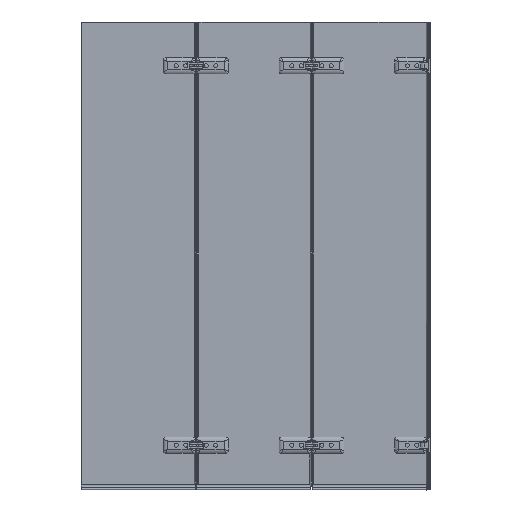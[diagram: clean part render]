
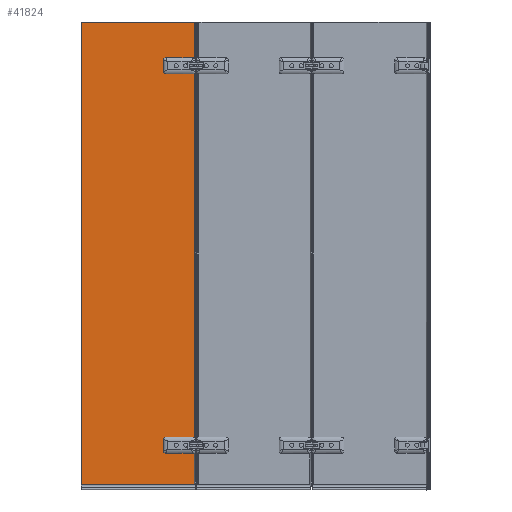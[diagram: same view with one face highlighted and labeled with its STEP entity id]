
A CAD part, left-side view. The second image highlights one B-rep face of the part: STEP entity #41824.
In plain terms, the highlighted planar face has unit normal (-1, 0, 0).
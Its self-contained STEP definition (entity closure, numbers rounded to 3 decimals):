
#678=FACE_BOUND($,#14666,.T.);
#679=FACE_BOUND($,#14667,.T.);
#3739=LINE($,#97539,#7308);
#3740=LINE($,#97545,#7309);
#3952=LINE($,#98615,#7521);
#3982=LINE($,#98694,#7551);
#4148=LINE($,#99300,#7717);
#4159=LINE($,#99336,#7728);
#4160=LINE($,#99339,#7729);
#4161=LINE($,#99341,#7730);
#4162=LINE($,#99344,#7731);
#4163=LINE($,#99346,#7732);
#4164=LINE($,#99350,#7733);
#4165=LINE($,#99353,#7734);
#7308=VECTOR($,#54381,1262.);
#7309=VECTOR($,#54388,116.4);
#7521=VECTOR($,#55036,131.);
#7551=VECTOR($,#55124,30.747);
#7717=VECTOR($,#55598,388.226);
#7728=VECTOR($,#55643,18.);
#7729=VECTOR($,#55646,30.747);
#7730=VECTOR($,#55647,389.647);
#7731=VECTOR($,#55650,1585.3);
#7732=VECTOR($,#55651,29.226);
#7733=VECTOR($,#55654,18.);
#7734=VECTOR($,#55657,30.747);
#10220=PLANE($,#45384);
#12223=FACE_OUTER_BOUND($,#14665,.T.);
#14665=EDGE_LOOP($,(#36316,#36317,#36318,#36319,#36320,#36321,#36322,#36323,
#36324,#36325,#36326,#36327,#36328,#36329,#36330,#36331,#36332));
#14666=EDGE_LOOP($,(#36333));
#14667=EDGE_LOOP($,(#36334));
#16357=CIRCLE($,#45385,10.);
#16358=CIRCLE($,#45386,10.);
#16359=CIRCLE($,#45387,0.1);
#16360=CIRCLE($,#45388,10.);
#16361=CIRCLE($,#45389,10.);
#16362=CIRCLE($,#45390,8.);
#16363=CIRCLE($,#45391,8.);
#19609=VERTEX_POINT($,#97536);
#19610=VERTEX_POINT($,#97538);
#19611=VERTEX_POINT($,#97542);
#19612=VERTEX_POINT($,#97544);
#19829=VERTEX_POINT($,#98612);
#19830=VERTEX_POINT($,#98614);
#19850=VERTEX_POINT($,#98692);
#20002=VERTEX_POINT($,#99299);
#20009=VERTEX_POINT($,#99333);
#20010=VERTEX_POINT($,#99335);
#20011=VERTEX_POINT($,#99337);
#20012=VERTEX_POINT($,#99340);
#20013=VERTEX_POINT($,#99342);
#20014=VERTEX_POINT($,#99345);
#20015=VERTEX_POINT($,#99347);
#20016=VERTEX_POINT($,#99349);
#20017=VERTEX_POINT($,#99351);
#20018=VERTEX_POINT($,#99354);
#20019=VERTEX_POINT($,#99356);
#24953=EDGE_CURVE($,#19609,#19610,#3739,.T.);
#24956=EDGE_CURVE($,#19611,#19612,#3740,.T.);
#25292=EDGE_CURVE($,#19829,#19830,#3952,.T.);
#25332=EDGE_CURVE($,#19850,#19609,#3982,.T.);
#25576=EDGE_CURVE($,#20002,#19612,#4148,.T.);
#25593=EDGE_CURVE($,#19850,#20009,#16357,.T.);
#25594=EDGE_CURVE($,#20010,#20009,#4159,.T.);
#25595=EDGE_CURVE($,#20010,#20011,#16358,.T.);
#25596=EDGE_CURVE($,#19830,#20011,#4160,.T.);
#25597=EDGE_CURVE($,#19829,#20012,#4161,.T.);
#25598=EDGE_CURVE($,#20012,#20013,#16359,.T.);
#25599=EDGE_CURVE($,#20002,#20013,#4162,.T.);
#25600=EDGE_CURVE($,#20014,#19611,#4163,.T.);
#25601=EDGE_CURVE($,#20014,#20015,#16360,.T.);
#25602=EDGE_CURVE($,#20016,#20015,#4164,.T.);
#25603=EDGE_CURVE($,#20016,#20017,#16361,.T.);
#25604=EDGE_CURVE($,#19610,#20017,#4165,.T.);
#25605=EDGE_CURVE($,#20018,#20018,#16362,.T.);
#25606=EDGE_CURVE($,#20019,#20019,#16363,.T.);
#36316=ORIENTED_EDGE($,*,*,#24953,.F.);
#36317=ORIENTED_EDGE($,*,*,#25332,.F.);
#36318=ORIENTED_EDGE($,*,*,#25593,.T.);
#36319=ORIENTED_EDGE($,*,*,#25594,.F.);
#36320=ORIENTED_EDGE($,*,*,#25595,.T.);
#36321=ORIENTED_EDGE($,*,*,#25596,.F.);
#36322=ORIENTED_EDGE($,*,*,#25292,.F.);
#36323=ORIENTED_EDGE($,*,*,#25597,.T.);
#36324=ORIENTED_EDGE($,*,*,#25598,.T.);
#36325=ORIENTED_EDGE($,*,*,#25599,.F.);
#36326=ORIENTED_EDGE($,*,*,#25576,.T.);
#36327=ORIENTED_EDGE($,*,*,#24956,.F.);
#36328=ORIENTED_EDGE($,*,*,#25600,.F.);
#36329=ORIENTED_EDGE($,*,*,#25601,.T.);
#36330=ORIENTED_EDGE($,*,*,#25602,.F.);
#36331=ORIENTED_EDGE($,*,*,#25603,.T.);
#36332=ORIENTED_EDGE($,*,*,#25604,.F.);
#36333=ORIENTED_EDGE($,*,*,#25605,.F.);
#36334=ORIENTED_EDGE($,*,*,#25606,.F.);
#41824=ADVANCED_FACE($,(#12223,#678,#679),#10220,.F.);
#45384=AXIS2_PLACEMENT_3D($,#99332,#55639,#55640);
#45385=AXIS2_PLACEMENT_3D($,#99334,#55641,#55642);
#45386=AXIS2_PLACEMENT_3D($,#99338,#55644,#55645);
#45387=AXIS2_PLACEMENT_3D($,#99343,#55648,#55649);
#45388=AXIS2_PLACEMENT_3D($,#99348,#55652,#55653);
#45389=AXIS2_PLACEMENT_3D($,#99352,#55655,#55656);
#45390=AXIS2_PLACEMENT_3D($,#99355,#55658,#55659);
#45391=AXIS2_PLACEMENT_3D($,#99357,#55660,#55661);
#54381=DIRECTION($,(0.,0.,-1.));
#54388=DIRECTION($,(0.,0.,-1.));
#55036=DIRECTION($,(0.,0.,-1.));
#55124=DIRECTION($,(0.,-1.,0.));
#55598=DIRECTION($,(0.,-1.,0.));
#55639=DIRECTION('center_axis',(1.,0.,0.));
#55640=DIRECTION('ref_axis',(0.,1.,0.));
#55641=DIRECTION('center_axis',(1.,0.,0.));
#55642=DIRECTION('ref_axis',(0.,0.707,-0.707));
#55643=DIRECTION($,(0.,0.,-1.));
#55644=DIRECTION('center_axis',(1.,0.,0.));
#55645=DIRECTION('ref_axis',(0.,0.707,0.707));
#55646=DIRECTION($,(0.,1.,0.));
#55647=DIRECTION($,(0.,1.,0.));
#55648=DIRECTION('center_axis',(-1.,0.,0.));
#55649=DIRECTION('ref_axis',(0.,0.707,0.707));
#55650=DIRECTION($,(0.,0.,1.));
#55651=DIRECTION($,(0.,-1.,0.));
#55652=DIRECTION('center_axis',(1.,0.,0.));
#55653=DIRECTION('ref_axis',(0.,0.707,-0.707));
#55654=DIRECTION($,(0.,0.,-1.));
#55655=DIRECTION('center_axis',(1.,0.,0.));
#55656=DIRECTION('ref_axis',(0.,0.707,0.707));
#55657=DIRECTION($,(0.,1.,0.));
#55658=DIRECTION('center_axis',(-1.,0.,0.));
#55659=DIRECTION('ref_axis',(0.,-1.,0.));
#55660=DIRECTION('center_axis',(-1.,0.,0.));
#55661=DIRECTION('ref_axis',(0.,-1.,0.));
#97536=CARTESIAN_POINT('',(1225.833,-243.791,1455.944));
#97538=CARTESIAN_POINT('',(1225.833,-243.791,193.944));
#97539=CARTESIAN_POINT($,(1225.833,-243.791,184.944));
#97542=CARTESIAN_POINT('',(1225.833,-242.27,155.944));
#97544=CARTESIAN_POINT('',(1225.833,-242.27,39.544));
#97545=CARTESIAN_POINT($,(1225.833,-242.27,164.944));
#98612=CARTESIAN_POINT('',(1225.833,-243.791,1624.944));
#98614=CARTESIAN_POINT('',(1225.833,-243.791,1493.944));
#98615=CARTESIAN_POINT($,(1225.833,-243.791,1484.944));
#98692=CARTESIAN_POINT('',(1225.833,-213.044,1455.944));
#98694=CARTESIAN_POINT($,(1225.833,-224.044,1455.944));
#99299=CARTESIAN_POINT('',(1225.833,145.956,39.544));
#99300=CARTESIAN_POINT($,(1225.833,145.956,39.544));
#99332=CARTESIAN_POINT('Origin',(1225.833,-245.044,34.944));
#99333=CARTESIAN_POINT('',(1225.833,-203.044,1465.944));
#99334=CARTESIAN_POINT('Origin',(1225.833,-213.044,1465.944));
#99335=CARTESIAN_POINT('',(1225.833,-203.044,1483.944));
#99336=CARTESIAN_POINT($,(1225.833,-203.044,764.444));
#99337=CARTESIAN_POINT('',(1225.833,-213.044,1493.944));
#99338=CARTESIAN_POINT('Origin',(1225.833,-213.044,1483.944));
#99339=CARTESIAN_POINT($,(1225.833,-245.044,1493.944));
#99340=CARTESIAN_POINT('',(1225.833,145.856,1624.944));
#99341=CARTESIAN_POINT($,(1225.833,-245.044,1624.944));
#99342=CARTESIAN_POINT('',(1225.833,145.956,1624.844));
#99343=CARTESIAN_POINT('Origin',(1225.833,145.856,1624.844));
#99344=CARTESIAN_POINT($,(1225.833,145.956,34.944));
#99345=CARTESIAN_POINT('',(1225.833,-213.044,155.944));
#99346=CARTESIAN_POINT($,(1225.833,-224.044,155.944));
#99347=CARTESIAN_POINT('',(1225.833,-203.044,165.944));
#99348=CARTESIAN_POINT('Origin',(1225.833,-213.044,165.944));
#99349=CARTESIAN_POINT('',(1225.833,-203.044,183.944));
#99350=CARTESIAN_POINT($,(1225.833,-203.044,114.444));
#99351=CARTESIAN_POINT('',(1225.833,-213.044,193.944));
#99352=CARTESIAN_POINT('Origin',(1225.833,-213.044,183.944));
#99353=CARTESIAN_POINT($,(1225.833,-245.044,193.944));
#99354=CARTESIAN_POINT('',(1225.833,-172.044,1474.944));
#99355=CARTESIAN_POINT('Origin',(1225.833,-180.044,1474.944));
#99356=CARTESIAN_POINT('',(1225.833,-172.044,174.944));
#99357=CARTESIAN_POINT('Origin',(1225.833,-180.044,174.944));
